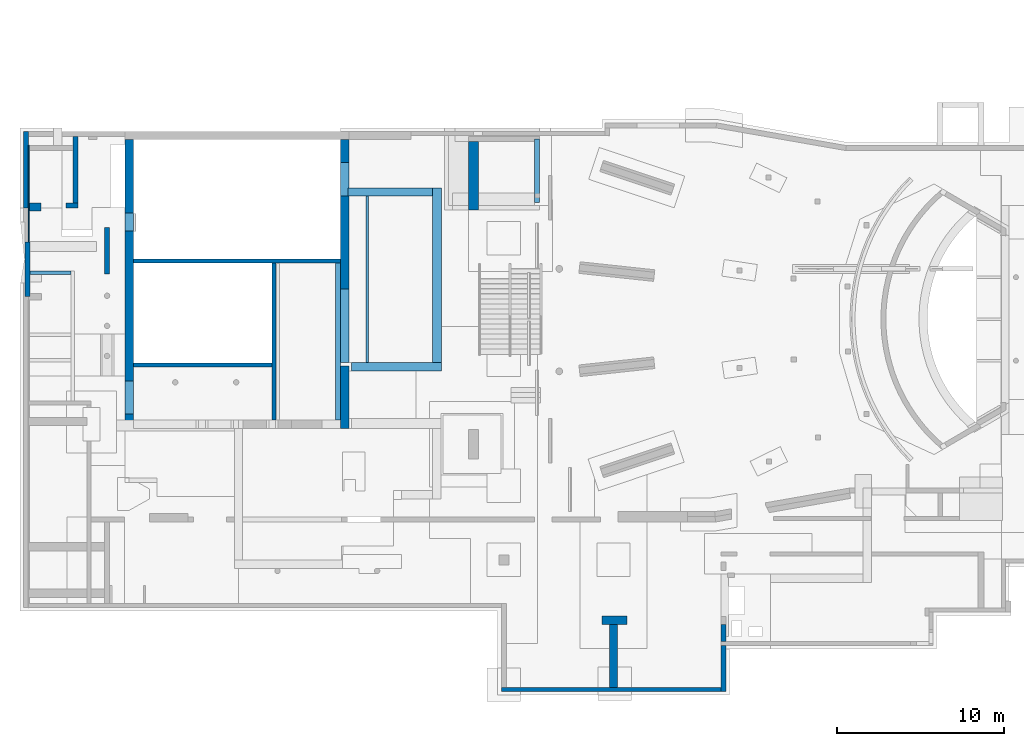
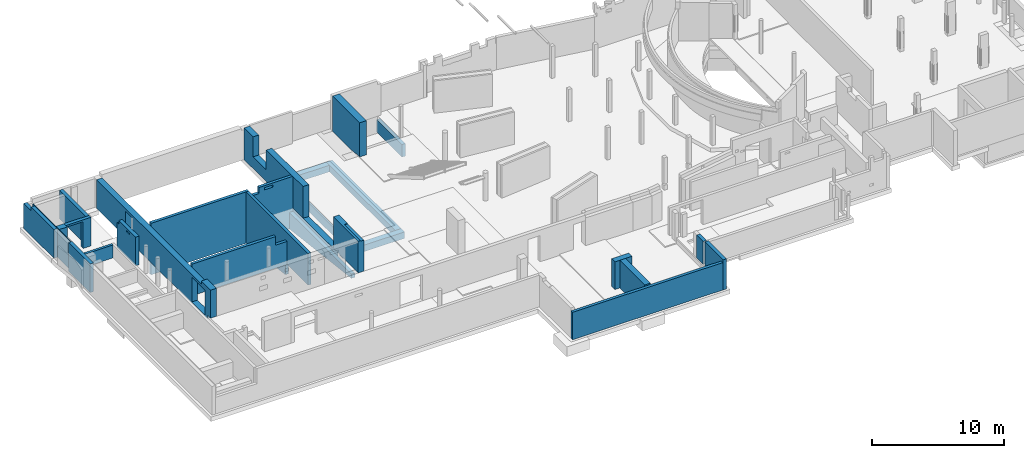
# One storey, part 32 of 42: 27 walls, 14 openings.
"""IFC2X3 building model written with IfcOpenShell, lengths in millimetres."""

from ifc_helpers import new_model, entity, si_unit, converted_unit, derived_unit, direction, frame, frame_2d, origin, origin_2d_with_axis, place, context, subcontext, project, spatial, polyline, rectangle, extrude, clip, bounded_halfspace, material, layer, layer_set, layer_usage, type_object, element, save


model = new_model("IFC2X3")

# Units and contexts
model_context = context("Model", 3, precision=0.01, world=origin(), true_north=direction((6.12303176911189e-17, 1.0)))
body_context = subcontext(model_context, "Body", "Model", "MODEL_VIEW")
ifc_project = project(units=[si_unit("LENGTHUNIT", "METRE", prefix="MILLI"), si_unit("AREAUNIT", "SQUARE_METRE", prefix="MILLI"), si_unit("VOLUMEUNIT", "CUBIC_METRE"), converted_unit("PLANEANGLEUNIT", "DEGREE", entity("IfcRatioMeasure", 0.0174532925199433), si_unit("PLANEANGLEUNIT", "RADIAN"), dimensions=[0, 0, 0, 0, 0, 0, 0]), si_unit("MASSUNIT", "GRAM", prefix="KILO"), derived_unit("MASSDENSITYUNIT", [(si_unit("MASSUNIT", "GRAM", prefix="KILO"), 1), (si_unit("LENGTHUNIT", "METRE"), -3)]), derived_unit("MOMENTOFINERTIAUNIT", [(si_unit("LENGTHUNIT", "METRE"), 4)]), si_unit("TIMEUNIT", "SECOND"), si_unit("FREQUENCYUNIT", "HERTZ"), si_unit("THERMODYNAMICTEMPERATUREUNIT", "DEGREE_CELSIUS"), derived_unit("THERMALTRANSMITTANCEUNIT", [(si_unit("MASSUNIT", "GRAM", prefix="KILO"), 1), (si_unit("THERMODYNAMICTEMPERATUREUNIT", "KELVIN"), -1), (si_unit("TIMEUNIT", "SECOND"), -3)]), derived_unit("VOLUMETRICFLOWRATEUNIT", [(si_unit("LENGTHUNIT", "METRE"), 3), (si_unit("TIMEUNIT", "SECOND"), -1)]), si_unit("ELECTRICCURRENTUNIT", "AMPERE"), si_unit("ELECTRICVOLTAGEUNIT", "VOLT"), si_unit("POWERUNIT", "WATT"), si_unit("FORCEUNIT", "NEWTON", prefix="KILO"), si_unit("ILLUMINANCEUNIT", "LUX"), si_unit("LUMINOUSFLUXUNIT", "LUMEN"), si_unit("LUMINOUSINTENSITYUNIT", "CANDELA"), derived_unit("USERDEFINED", [(si_unit("MASSUNIT", "GRAM", prefix="KILO"), -1), (si_unit("LENGTHUNIT", "METRE"), -2), (si_unit("TIMEUNIT", "SECOND"), 3), (si_unit("LUMINOUSFLUXUNIT", "LUMEN"), 1)]), derived_unit("LINEARVELOCITYUNIT", [(si_unit("LENGTHUNIT", "METRE"), 1), (si_unit("TIMEUNIT", "SECOND"), -1)]), si_unit("PRESSUREUNIT", "PASCAL"), derived_unit("USERDEFINED", [(si_unit("LENGTHUNIT", "METRE"), -2), (si_unit("MASSUNIT", "GRAM", prefix="KILO"), 1), (si_unit("TIMEUNIT", "SECOND"), -2)]), derived_unit("LINEARFORCEUNIT", [(si_unit("MASSUNIT", "GRAM", prefix="KILO"), 1), (si_unit("LENGTHUNIT", "METRE"), 1), (si_unit("TIMEUNIT", "SECOND"), -2), (si_unit("LENGTHUNIT", "METRE"), -1)]), derived_unit("PLANARFORCEUNIT", [(si_unit("MASSUNIT", "GRAM", prefix="KILO"), 1), (si_unit("LENGTHUNIT", "METRE"), 1), (si_unit("TIMEUNIT", "SECOND"), -2), (si_unit("LENGTHUNIT", "METRE"), -2)])], contexts=[model_context])

# Site, building, storey
site_placement = place(None, origin())
site = spatial("IfcSite", under=ifc_project, at=site_placement, Name="Theater aan de Parade", CompositionType="ELEMENT")
building_placement = place(site_placement, origin())
building = spatial("IfcBuilding", under=site, at=building_placement, Name="Theater aan de Parade", CompositionType="ELEMENT")
storey_placement = place(building_placement, frame((0.0, 0.0, -3300.0)))
storey = spatial("IfcBuildingStorey", under=building, at=storey_placement, Name="-1 kelder", CompositionType="ELEMENT", Elevation=-3300.0)

# Walls
ifc_material_1 = material(Name="00_PBT_MAT_beton t.p.g.")
ifc_layer_1 = layer(ifc_material_1, 250.0)
ifc_layer_set_1 = layer_set([ifc_layer_1], Name="Basic Wall:16_PBT_WA_beton t.p.g._d=250_bestaand")
ifc_layer_usage_1 = layer_usage(ifc_layer_set_1, "AXIS2", "POSITIVE", -125.0)
wall_type_1 = type_object("IfcWallType", Name="Basic Wall:16_PBT_WA_beton t.p.g._d=250_bestaand", PredefinedType="STANDARD", material=ifc_layer_set_1)
wall_1_placement = place(storey_placement, frame((38815.0, 10285.0, -40.0)))
element("IfcWallStandardCase", 1, at=wall_1_placement, inside=storey, type_object=wall_type_1, material=ifc_layer_usage_1, Name="Basic Wall:16_PBT_WA_beton t.p.g._d=250_bestaand", ObjectType="Basic Wall:16_PBT_WA_beton t.p.g._d=250_bestaand", context=body_context, shape_type="SweptSolid", body=[
    extrude(rectangle(XDim=13160.0, YDim=249.999999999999, at=frame_2d((6580.00000000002, -6.75015598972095e-13), x_axis=(-1.0, 0.0))), origin(), (0.0, 0.0, 1.0), 2540.0),
])
ifc_layer_2 = layer(ifc_material_1, 300.0)
ifc_layer_set_2 = layer_set([ifc_layer_2], Name="Basic Wall:16_PBT_WA_beton t.p.g._d=300_bestaand")
ifc_layer_usage_2 = layer_usage(ifc_layer_set_2, "AXIS2", "POSITIVE", -150.0)
wall_type_2 = type_object("IfcWallType", Name="Basic Wall:16_PBT_WA_beton t.p.g._d=300_bestaand", PredefinedType="STANDARD", material=ifc_layer_set_2)
wall_2_placement = place(storey_placement, frame((52125.0, 10160.0, -40.0), z_axis=(0.0, 0.0, 1.0), x_axis=(0.0, 1.0, 0.0)))
element("IfcWallStandardCase", 2, at=wall_2_placement, inside=storey, type_object=wall_type_2, material=ifc_layer_usage_2, Name="Basic Wall:16_PBT_WA_beton t.p.g._d=300_bestaand", ObjectType="Basic Wall:16_PBT_WA_beton t.p.g._d=300_bestaand", context=body_context, shape_type="SweptSolid", body=[
    extrude(rectangle(XDim=2750.00000000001, YDim=300.000000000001, at=frame_2d((1375.00000000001, 0.0), x_axis=(-1.0, 0.0))), origin(), (0.0, 0.0, 1.0), 2790.00000000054),
])
ifc_layer_usage_3 = layer_usage(ifc_layer_set_2, "AXIS2", "NEGATIVE", 150.0)
wall_3_placement = place(storey_placement, frame((10450.0, 33815.0, -40.0), z_axis=(0.0, 0.0, 1.0), x_axis=(0.0, 1.0, 0.0)))
element("IfcWallStandardCase", 3, at=wall_3_placement, inside=storey, type_object=wall_type_2, material=ifc_layer_usage_3, Name="Basic Wall:16_PBT_WA_beton t.p.g._d=300_bestaand", ObjectType="Basic Wall:16_PBT_WA_beton t.p.g._d=300_bestaand", context=body_context, shape_type="SweptSolid", body=[
    extrude(rectangle(XDim=3275.0, YDim=300.000000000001, at=frame_2d((1637.5, 0.0), x_axis=(-1.0, 0.0))), origin(), (0.0, 0.0, 1.0), 2650.00000000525),
])

# Wall, opening
ifc_layer_usage_4 = layer_usage(ifc_layer_set_2, "AXIS2", "NEGATIVE", 150.0)
wall_4_placement = place(storey_placement, frame((10340.0, 39120.0, -40.0), z_axis=(0.0, 0.0, 1.0), x_axis=(0.0, 1.0, 0.0)))
wall_4 = element("IfcWallStandardCase", 4, at=wall_4_placement, inside=storey, type_object=wall_type_2, material=ifc_layer_usage_4, Name="Basic Wall:16_PBT_WA_beton t.p.g._d=300_bestaand", ObjectType="Basic Wall:16_PBT_WA_beton t.p.g._d=300_bestaand", context=body_context, shape_type="SweptSolid", body=[
    extrude(rectangle(XDim=4580.00000002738, YDim=300.000000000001, at=frame_2d((2290.00000001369, 0.0), x_axis=(-1.0, 0.0))), origin(), (0.0, 0.0, 1.0), 2650.00000000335),
])
opening_1_placement = place(wall_4_placement, origin())
element("IfcOpeningElement", 5, at=opening_1_placement, cuts=wall_4, Name="Basic Wall:16_PBT_WA_beton t.p.g._d=300_bestaand", ObjectType="Opening", context=body_context, shape_type="SweptSolid", body=[
    extrude(rectangle(XDim=350.000000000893, YDim=1129.99999999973, at=origin_2d_with_axis()), frame((4015.0, 150.0, 2475.0), z_axis=(0.0, -1.0, 0.0), x_axis=(0.0, 0.0, 1.0)), (0.0, 0.0, 1.0), 300.0),
])

# Walls
ifc_layer_3 = layer(ifc_material_1, 500.0)
ifc_layer_set_3 = layer_set([ifc_layer_3], Name="Basic Wall:16_PBT_WA_beton t.p.g._d=500_bestaand")
ifc_layer_usage_5 = layer_usage(ifc_layer_set_3, "AXIS2", "POSITIVE", -250.0)
wall_type_3 = type_object("IfcWallType", Name="Basic Wall:16_PBT_WA_beton t.p.g._d=500_bestaand", PredefinedType="STANDARD", material=ifc_layer_set_3)
wall_5_placement = place(storey_placement, frame((34690.0, 40070.0, -1040.0), z_axis=(0.0, 0.0, 1.0), x_axis=(-1.0, 0.0, 0.0)))
element("IfcWallStandardCase", 6, at=wall_5_placement, inside=storey, type_object=wall_type_3, material=ifc_layer_usage_5, Name="Basic Wall:16_PBT_WA_beton t.p.g._d=500_bestaand", ObjectType="Basic Wall:16_PBT_WA_beton t.p.g._d=500_bestaand", context=body_context, shape_type="SweptSolid", body=[
    extrude(rectangle(XDim=5054.99999999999, YDim=500.000000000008, at=frame_2d((2527.5, 1.74793512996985e-12), x_axis=(-1.0, 0.0))), origin(), (0.0, 0.0, 1.0), 600.0),
])
ifc_layer_usage_6 = layer_usage(ifc_layer_set_3, "AXIS2", "POSITIVE", -250.0)
wall_6_placement = place(storey_placement, frame((35215.0, 29610.0, -1040.0), z_axis=(0.0, 0.0, 1.0), x_axis=(-1.0, 0.0, 0.0)))
element("IfcWallStandardCase", 7, at=wall_6_placement, inside=storey, type_object=wall_type_3, material=ifc_layer_usage_6, Name="Basic Wall:16_PBT_WA_beton t.p.g._d=500_bestaand", ObjectType="Basic Wall:16_PBT_WA_beton t.p.g._d=500_bestaand", context=body_context, shape_type="Clipping", body=[
    clip(extrude(rectangle(XDim=5390.0, YDim=499.999999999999, at=frame_2d((2695.0, 2.70006239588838e-13), x_axis=(-1.0, 0.0))), origin(), (0.0, 0.0, 1.0), 600.0), bounded_halfspace(frame((5390.0, -250.0, 600.0), z_axis=(-1.0, 0.0, 0.0), x_axis=(0.0, -1.0, 0.0)), True, frame((5390.0, -250.0, 600.0), z_axis=(-1.0, 0.0, 0.0), x_axis=(0.0, -1.0, 0.0)), polyline([(0.0, 0.0), (-500.0, 0.0), (-500.0, -600.0), (0.0, -600.0), (0.0, 0.0)]))),
])

# Wall, openings
ifc_layer_4 = layer(ifc_material_1, 500.0)
ifc_layer_set_4 = layer_set([ifc_layer_4], Name="Basic Wall:28_PBT_WA_beton t.p.g._d=500_bestaand")
ifc_layer_usage_7 = layer_usage(ifc_layer_set_4, "AXIS2", "POSITIVE", -250.0)
wall_type_4 = type_object("IfcWallType", Name="Basic Wall:28_PBT_WA_beton t.p.g._d=500_bestaand", PredefinedType="STANDARD", material=ifc_layer_set_4)
wall_7_placement = place(storey_placement, frame((16525.0, 25910.0, -40.0), z_axis=(0.0, 0.0, 1.0), x_axis=(0.0, 1.0, 0.0)))
wall_7 = element("IfcWallStandardCase", 8, at=wall_7_placement, inside=storey, type_object=wall_type_4, material=ifc_layer_usage_7, Name="Basic Wall:28_PBT_WA_beton t.p.g._d=500_bestaand", ObjectType="Basic Wall:28_PBT_WA_beton t.p.g._d=500_bestaand", context=body_context, shape_type="Clipping", body=[
    clip(clip(clip(clip(extrude(rectangle(XDim=17290.0, YDim=499.999999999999, at=frame_2d((8644.99999999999, -7.8159700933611e-13), x_axis=(-1.0, 0.0))), origin(), (0.0, 0.0, 1.0), 2930.00000000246), bounded_halfspace(frame((500.0, 250.0, 340.0), z_axis=(0.0, 0.0, 1.0), x_axis=(0.0, 1.0, 0.0)), True, frame((500.0, 250.0, 340.0), z_axis=(0.0, 0.0, 1.0), x_axis=(0.0, 1.0, 0.0)), polyline([(0.0, 0.0), (0.0, 500.0), (-500.0, 500.0), (-500.0, 0.0), (0.0, 0.0)]))), bounded_halfspace(frame((500.0, -250.0, 340.0), z_axis=(1.0, 0.0, 0.0), x_axis=(0.0, 0.0, 1.0)), True, frame((500.0, -250.0, 340.0), z_axis=(1.0, 0.0, 0.0), x_axis=(0.0, 0.0, 1.0)), polyline([(0.0, 0.0), (-340.0, 0.0), (-340.0, -500.0), (0.0, -500.0), (0.0, 0.0)]))), bounded_halfspace(frame((1410.0, 250.0, 2650.0), z_axis=(0.0, 0.0, -1.0), x_axis=(0.0, -1.0, 0.0)), True, frame((1410.0, 250.0, 2650.0), z_axis=(0.0, 0.0, -1.0), x_axis=(0.0, -1.0, 0.0)), polyline([(0.0, 0.0), (0.0, -15880.0), (500.0, -15880.0), (500.0, 0.0), (0.0, 0.0)]))), bounded_halfspace(frame((1410.0, -250.0, 2650.0), z_axis=(-1.0, 0.0, 0.0), x_axis=(0.0, 0.0, 1.0)), True, frame((1410.0, -250.0, 2650.0), z_axis=(-1.0, 0.0, 0.0), x_axis=(0.0, 0.0, 1.0)), polyline([(0.0, 0.0), (280.0, 0.0), (280.0, 500.0), (0.0, 500.0), (0.0, 0.0)]))),
])
opening_2_placement = place(wall_7_placement, origin())
element("IfcOpeningElement", 9, at=opening_2_placement, cuts=wall_7, Name="Basic Wall:28_PBT_WA_beton t.p.g._d=500_bestaand", ObjectType="Opening", context=body_context, shape_type="SweptSolid", body=[
    extrude(rectangle(XDim=2310.00000000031, YDim=1054.00534665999, at=frame_2d((1.13686837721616e-13, 2.1600499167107e-12), x_axis=(1.0, 0.0))), frame((12362.99923603, 250.0, 1265.0), z_axis=(0.0, -1.0, 0.0), x_axis=(0.0, 0.0, -1.0)), (0.0, 0.0, 1.0), 500.0),
])
opening_3_placement = place(wall_7_placement, origin())
element("IfcOpeningElement", 10, at=opening_3_placement, cuts=wall_7, Name="Basic Wall:28_PBT_WA_beton t.p.g._d=500_bestaand", ObjectType="Opening", context=body_context, shape_type="SweptSolid", body=[
    extrude(rectangle(XDim=2310.00000000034, YDim=1975.0, at=frame_2d((1.13686837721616e-13, 0.0), x_axis=(1.0, 0.0))), frame((1867.63359420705, 250.0, 1265.0), z_axis=(0.0, -1.0, 0.0), x_axis=(0.0, 0.0, 1.0)), (0.0, 0.0, 1.0), 500.0),
])
opening_4_placement = place(wall_7_placement, origin())
element("IfcOpeningElement", 11, at=opening_4_placement, cuts=wall_7, Name="Basic Wall:28_PBT_WA_beton t.p.g._d=500_bestaand", ObjectType="Opening", context=body_context, shape_type="SweptSolid", body=[
    extrude(rectangle(XDim=30.0000000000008, YDim=1950.00000000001, at=frame_2d((0.0, 0.0), x_axis=(0.0, 1.0))), frame((14315.0, 250.0, 15.0), z_axis=(0.0, -1.0, 0.0), x_axis=(1.0, 0.0, 0.0)), (0.0, 0.0, 1.0), 500.0),
])

# Walls
ifc_layer_usage_8 = layer_usage(ifc_layer_set_4, "AXIS2", "POSITIVE", -250.0)
wall_8_placement = place(storey_placement, frame((29425.0, 29860.0, -1040.0), z_axis=(0.0, 0.0, 1.0), x_axis=(0.0, 1.0, 0.0)))
element("IfcWallStandardCase", 12, at=wall_8_placement, inside=storey, type_object=wall_type_4, material=ifc_layer_usage_8, Name="Basic Wall:28_PBT_WA_beton t.p.g._d=500_bestaand", ObjectType="Basic Wall:28_PBT_WA_beton t.p.g._d=500_bestaand", context=body_context, shape_type="SweptSolid", body=[
    extrude(rectangle(XDim=9960.00000000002, YDim=499.999999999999, at=frame_2d((4980.00000000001, 5.40012479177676e-13), x_axis=(-1.0, 0.0))), origin(), (0.0, 0.0, 1.0), 1000.0),
])
ifc_layer_5 = layer(ifc_material_1, 525.0)
ifc_layer_set_5 = layer_set([ifc_layer_5], Name="Basic Wall:16_PBT_WA_beton t.p.g._d=525_bestaand")
ifc_layer_usage_9 = layer_usage(ifc_layer_set_5, "AXIS2", "POSITIVE", -262.5)
wall_type_5 = type_object("IfcWallType", Name="Basic Wall:16_PBT_WA_beton t.p.g._d=525_bestaand", PredefinedType="STANDARD", material=ifc_layer_set_5)
wall_9_placement = place(storey_placement, frame((34952.5000000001, 29860.0, -1040.0), z_axis=(0.0, 0.0, 1.0), x_axis=(0.0, 1.0, 0.0)))
element("IfcWallStandardCase", 13, at=wall_9_placement, inside=storey, type_object=wall_type_5, material=ifc_layer_usage_9, Name="Basic Wall:16_PBT_WA_beton t.p.g._d=525_bestaand", ObjectType="Basic Wall:16_PBT_WA_beton t.p.g._d=525_bestaand", context=body_context, shape_type="SweptSolid", body=[
    extrude(rectangle(XDim=10460.0, YDim=525.000000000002, at=frame_2d((5230.00000000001, 0.0), x_axis=(-1.0, 0.0))), origin(), (0.0, 0.0, 1.0), 600.0),
])

# Wall, opening
ifc_material_2 = material(Name="00_PBT_MAT_beton t.p.g._C30/37")
ifc_layer_6 = layer(ifc_material_2, 300.0)
ifc_layer_set_6 = layer_set([ifc_layer_6], Name="Basic Wall:28_PBT_WA_beton t.p.g._d=300_C30/37")
ifc_layer_usage_10 = layer_usage(ifc_layer_set_6, "AXIS2", "NEGATIVE", 150.0)
wall_type_6 = type_object("IfcWallType", Name="Basic Wall:28_PBT_WA_beton t.p.g._d=300_C30/37", PredefinedType="STANDARD", material=ifc_layer_set_6)
wall_10_placement = place(storey_placement, frame((13454.8570025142, 39270.0, -40.0), z_axis=(0.0, 0.0, 1.0), x_axis=(-1.0, 0.0, 0.0)))
wall_10 = element("IfcWallStandardCase", 14, at=wall_10_placement, inside=storey, type_object=wall_type_6, material=ifc_layer_usage_10, Name="Basic Wall:28_PBT_WA_beton t.p.g._d=300_C30/37", ObjectType="Basic Wall:28_PBT_WA_beton t.p.g._d=300_C30/37", context=body_context, shape_type="Clipping", body=[
    clip(clip(extrude(rectangle(XDim=2200.54436971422, YDim=300.000000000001, at=frame_2d((1100.27218485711, 1.77635683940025e-12), x_axis=(-1.0, 0.0))), origin(), (0.0, 0.0, 1.0), 2650.00000000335), bounded_halfspace(frame((0.0, -150.0, 2650.0), z_axis=(0.0, 0.0, -1.0), x_axis=(-1.0, 0.0, 0.0)), True, frame((0.0, -150.0, 2650.0), z_axis=(0.0, 0.0, -1.0), x_axis=(-1.0, 0.0, 0.0)), polyline([(0.0, 0.0), (0.0, 300.0), (-2200.54436971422, 300.0), (-2200.54436971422, 0.0), (-300.0, 0.0), (0.0, 0.0)]))), bounded_halfspace(frame((2200.54436971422, -150.0, 2650.0), z_axis=(-1.0, 0.0, 0.0), x_axis=(0.0, 1.0, 0.0)), True, frame((2200.54436971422, -150.0, 2650.0), z_axis=(-1.0, 0.0, 0.0), x_axis=(0.0, 1.0, 0.0)), polyline([(0.0, 0.0), (300.0, 0.0), (300.0, 160.0), (0.0, 160.0), (0.0, 0.0)]))),
])
opening_5_placement = place(wall_10_placement, origin())
element("IfcOpeningElement", 15, at=opening_5_placement, cuts=wall_10, Name="Basic Wall:28_PBT_WA_beton t.p.g._d=300_C30/37", ObjectType="Opening", context=body_context, shape_type="SweptSolid", body=[
    extrude(rectangle(XDim=2489.99999999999, YDim=1500.0, at=frame_2d((0.0, 1.08002495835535e-12), x_axis=(1.0, 0.0))), frame((1450.54436971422, -150.0, 1245.0), z_axis=(0.0, 1.0, 0.0), x_axis=(0.0, 0.0, -1.0)), (0.0, 0.0, 1.0), 300.000000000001),
])

# Walls
ifc_layer_usage_11 = layer_usage(ifc_layer_set_6, "AXIS2", "NEGATIVE", 150.0)
wall_11_placement = place(storey_placement, frame((13304.8570025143, 43400.0, -40.0), z_axis=(0.0, 0.0, 1.0), x_axis=(0.0, -1.0, 0.0)))
element("IfcWallStandardCase", 16, at=wall_11_placement, inside=storey, type_object=wall_type_6, material=ifc_layer_usage_11, Name="Basic Wall:28_PBT_WA_beton t.p.g._d=300_C30/37", ObjectType="Basic Wall:28_PBT_WA_beton t.p.g._d=300_C30/37", context=body_context, shape_type="SweptSolid", body=[
    extrude(rectangle(XDim=3980.00000002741, YDim=300.000000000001, at=frame_2d((1990.00000001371, -9.9475983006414e-14), x_axis=(-1.0, 0.0))), origin(), (0.0, 0.0, 1.0), 2650.00000000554),
])
ifc_layer_usage_12 = layer_usage(ifc_layer_set_6, "AXIS2", "POSITIVE", -150.0)
wall_12_placement = place(storey_placement, frame((29025.0, 26410.0, -1870.74050632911), z_axis=(0.0, 0.0, 1.0), x_axis=(0.0, 1.0, 0.0)))
element("IfcWallStandardCase", 17, at=wall_12_placement, inside=storey, type_object=wall_type_6, material=ifc_layer_usage_12, Name="Basic Wall:28_PBT_WA_beton t.p.g._d=300_C30/37", ObjectType="Basic Wall:28_PBT_WA_beton t.p.g._d=300_C30/37", context=body_context, shape_type="Clipping", body=[
    clip(clip(extrude(rectangle(XDim=9403.0, YDim=300.000000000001, at=frame_2d((4701.5, 5.6843418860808e-14), x_axis=(-1.0, 0.0))), origin(), (0.0, 0.0, 1.0), 1530.74050632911), bounded_halfspace(frame((9403.0, -150.0, 0.0), z_axis=(0.119393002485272, 0.0, 0.992847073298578), x_axis=(0.992847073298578, 0.0, -0.119393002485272)), True, frame((9403.0, -150.0, 0.0)), polyline([(0.0, 0.0), (0.0, 300.0), (-9403.0, 300.0), (-9403.0, 0.0), (0.0, 0.0)]))), bounded_halfspace(frame((0.0, -150.0, 1530.74050632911), z_axis=(0.0, 0.0, -1.0), x_axis=(0.0, 1.0, 0.0)), True, frame((0.0, -150.0, 1530.74050632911), z_axis=(0.0, 0.0, -1.0), x_axis=(0.0, 1.0, 0.0)), polyline([(0.0, 0.0), (300.0, 0.0), (300.0, 9403.0), (0.0, 9403.0), (0.0, 0.0)]))),
])

# Wall, openings
ifc_layer_usage_13 = layer_usage(ifc_layer_set_6, "AXIS2", "POSITIVE", -150.0)
wall_13_placement = place(storey_placement, frame((15203.8570025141, 35155.0608842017, -40.0), z_axis=(0.0, 0.0, 1.0), x_axis=(0.0, 1.0, 0.0)))
wall_13 = element("IfcWallStandardCase", 18, at=wall_13_placement, inside=storey, type_object=wall_type_6, material=ifc_layer_usage_13, Name="Basic Wall:28_PBT_WA_beton t.p.g._d=300_C30/37", ObjectType="Basic Wall:28_PBT_WA_beton t.p.g._d=300_C30/37", context=body_context, shape_type="SweptSolid", body=[
    extrude(rectangle(XDim=2800.0, YDim=300.000000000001, at=frame_2d((1400.0, -3.12638803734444e-13), x_axis=(-1.0, 0.0))), origin(), (0.0, 0.0, 1.0), 2650.00000000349),
])
opening_6_placement = place(wall_13_placement, origin())
element("IfcOpeningElement", 19, at=opening_6_placement, cuts=wall_13, Name="Basic Wall:28_PBT_WA_beton t.p.g._d=300_C30/37", ObjectType="Opening", context=body_context, shape_type="SweptSolid", body=[
    extrude(rectangle(XDim=349.999999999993, YDim=250.000000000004, at=frame_2d((0.0, 0.0), x_axis=(0.0, 1.0))), frame((2675.0, -150.0, 2475.0), z_axis=(0.0, 1.0, 0.0), x_axis=(1.0, 0.0, 0.0)), (0.0, 0.0, 1.0), 300.000000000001),
])
opening_7_placement = place(wall_13_placement, origin())
element("IfcOpeningElement", 20, at=opening_7_placement, cuts=wall_13, Name="Basic Wall:28_PBT_WA_beton t.p.g._d=300_C30/37", ObjectType="Opening", context=body_context, shape_type="SweptSolid", body=[
    extrude(rectangle(XDim=129.999999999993, YDim=450.000000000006, at=frame_2d((-2.1600499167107e-12, 0.0), x_axis=(0.0, 1.0))), frame((1135.0, -150.0, 2390.0), z_axis=(0.0, 1.0, 0.0), x_axis=(1.0, 0.0, 0.0)), (0.0, 0.0, 1.0), 300.000000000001),
])

ifc_layer_7 = layer(ifc_material_2, 250.0)
ifc_layer_set_7 = layer_set([ifc_layer_7], Name="Basic Wall:28_PBT_WA_beton t.p.g._d=250_C30/37")
ifc_layer_usage_14 = layer_usage(ifc_layer_set_7, "AXIS2", "POSITIVE", -125.0)
wall_type_7 = type_object("IfcWallType", Name="Basic Wall:28_PBT_WA_beton t.p.g._d=250_C30/37", PredefinedType="STANDARD", material=ifc_layer_set_7)
wall_14_placement = place(storey_placement, frame((16775.0, 35938.0, -1900.0)))
wall_14 = element("IfcWallStandardCase", 21, at=wall_14_placement, inside=storey, type_object=wall_type_7, material=ifc_layer_usage_14, Name="Basic Wall:28_PBT_WA_beton t.p.g._d=250_C30/37", ObjectType="Basic Wall:28_PBT_WA_beton t.p.g._d=250_C30/37", context=body_context, shape_type="Clipping", body=[
    clip(extrude(rectangle(XDim=12400.0, YDim=250.000000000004, at=frame_2d((6200.0, 1.20792265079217e-13), x_axis=(-1.0, 0.0))), origin(), (0.0, 0.0, 1.0), 4790.00000000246), bounded_halfspace(frame((12400.0, -125.0, 29.2594936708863), z_axis=(0.0, 0.119393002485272, 0.992847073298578), x_axis=(0.0, 0.992847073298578, -0.119393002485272)), True, frame((12400.0, -125.0, 29.2594936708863), z_axis=(0.0, 0.119393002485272, 0.992847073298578), x_axis=(0.0, 0.992847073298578, -0.119393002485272)), polyline([(0.0, 0.0), (245.068748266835, 0.0), (245.068748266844, 12400.0), (0.0, 12400.0), (0.0, 4100.0), (0.0, 3850.0), (0.0, 300.0), (0.0, 0.0)]))),
])
opening_8_placement = place(wall_14_placement, origin())
element("IfcOpeningElement", 22, at=opening_8_placement, cuts=wall_14, Name="Basic Wall:28_PBT_WA_beton t.p.g._d=250_C30/37", ObjectType="Opening", context=body_context, shape_type="SweptSolid", body=[
    extrude(rectangle(XDim=549.999999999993, YDim=900.000000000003, at=frame_2d((0.0, 0.0), x_axis=(0.0, 1.0))), frame((9000.0, -125.0, 4515.0), z_axis=(0.0, 1.0, 0.0), x_axis=(1.0, 0.0, 0.0)), (0.0, 0.0, 1.0), 250.000000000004),
])
opening_9_placement = place(wall_14_placement, origin())
element("IfcOpeningElement", 23, at=opening_9_placement, cuts=wall_14, Name="Basic Wall:28_PBT_WA_beton t.p.g._d=250_C30/37", ObjectType="Opening", context=body_context, shape_type="SweptSolid", body=[
    extrude(rectangle(XDim=199.999999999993, YDim=750.000000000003, at=frame_2d((0.0, 0.0), x_axis=(0.0, 1.0))), frame((10285.0, -125.0, 4500.0), z_axis=(0.0, 1.0, 0.0), x_axis=(1.0, 0.0, 0.0)), (0.0, 0.0, 1.0), 250.000000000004),
])

# Wall, opening
ifc_layer_usage_15 = layer_usage(ifc_layer_set_7, "AXIS2", "POSITIVE", -125.0)
wall_15_placement = place(storey_placement, frame((16775.0, 29714.0, -40.0)))
wall_15 = element("IfcWallStandardCase", 24, at=wall_15_placement, inside=storey, type_object=wall_type_7, material=ifc_layer_usage_15, Name="Basic Wall:28_PBT_WA_beton t.p.g._d=250_C30/37", ObjectType="Basic Wall:28_PBT_WA_beton t.p.g._d=250_C30/37", context=body_context, shape_type="SweptSolid", body=[
    extrude(rectangle(XDim=8299.99999999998, YDim=250.000000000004, at=frame_2d((4149.99999999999, -6.03961325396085e-13), x_axis=(-1.0, 0.0))), origin(), (0.0, 0.0, 1.0), 2930.00000000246),
])
opening_10_placement = place(wall_15_placement, origin())
element("IfcOpeningElement", 25, at=opening_10_placement, cuts=wall_15, Name="Basic Wall:28_PBT_WA_beton t.p.g._d=250_C30/37", ObjectType="Opening", context=body_context, shape_type="SweptSolid", body=[
    extrude(rectangle(XDim=799.999999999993, YDim=1000.00000000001, at=frame_2d((0.0, 0.0), x_axis=(0.0, 1.0))), frame((7800.0, -125.0, 2530.0), z_axis=(0.0, 1.0, 0.0), x_axis=(1.0, 0.0, 0.0)), (0.0, 0.0, 1.0), 250.000000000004),
])

ifc_layer_usage_16 = layer_usage(ifc_layer_set_7, "AXIS2", "POSITIVE", -125.0)
wall_16_placement = place(storey_placement, frame((25200.0, 26410.0, -1870.74050632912), z_axis=(0.0, 0.0, 1.0), x_axis=(0.0, 1.0, 0.0)))
wall_16 = element("IfcWallStandardCase", 26, at=wall_16_placement, inside=storey, type_object=wall_type_7, material=ifc_layer_usage_16, Name="Basic Wall:28_PBT_WA_beton t.p.g._d=250_C30/37", ObjectType="Basic Wall:28_PBT_WA_beton t.p.g._d=250_C30/37", context=body_context, shape_type="Clipping", body=[
    clip(clip(clip(extrude(rectangle(XDim=9403.0, YDim=250.000000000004, at=frame_2d((4701.5, -7.95807864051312e-13), x_axis=(-1.0, 0.0))), origin(), (0.0, 0.0, 1.0), 4760.74050633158), bounded_halfspace(frame((9403.0, 125.0, 0.0), z_axis=(0.119393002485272, 0.0, 0.992847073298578), x_axis=(0.992847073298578, 0.0, -0.119393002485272)), True, frame((9403.0, 125.0, 0.0)), polyline([(0.0, 0.0), (-5974.0, 0.0), (-5974.0, -250.0), (0.0, -250.0), (0.0, 0.0)]))), bounded_halfspace(frame((3429.0, -125.0, 1830.74050632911), z_axis=(1.0, 0.0, 0.0), x_axis=(0.0, 1.0, 0.0)), True, frame((3429.0, -125.0, 1830.74050632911), z_axis=(1.0, 0.0, 0.0), x_axis=(0.0, 1.0, 0.0)), polyline([(0.0, 0.0), (0.0, -1112.34810126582), (250.0, -1112.34810126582), (250.0, 0.0), (0.0, 0.0)]))), bounded_halfspace(frame((3429.0, 125.0, 1830.74050632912), z_axis=(0.0, 0.0, 1.0), x_axis=(0.0, 1.0, 0.0)), True, frame((3429.0, 125.0, 1830.74050632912), z_axis=(0.0, 0.0, 1.0), x_axis=(0.0, 1.0, 0.0)), polyline([(0.0, 0.0), (0.0, 250.0), (0.0, 3429.0), (-250.0, 3429.0), (-250.0, 0.0), (0.0, 0.0)]))),
])
opening_11_placement = place(wall_16_placement, origin())
element("IfcOpeningElement", 27, at=opening_11_placement, cuts=wall_16, Name="Basic Wall:28_PBT_WA_beton t.p.g._d=250_C30/37", ObjectType="Opening", context=body_context, shape_type="SweptSolid", body=[
    extrude(rectangle(XDim=799.999999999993, YDim=250.000000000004, at=frame_2d((0.0, 0.0), x_axis=(0.0, 1.0))), frame((3304.0, 125.0, 4360.74050633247), z_axis=(0.0, 1.0, 0.0), x_axis=(1.0, 0.0, 0.0)), (0.0, 0.0, 1.0), 1000.00000000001),
])

ifc_layer_8 = layer(ifc_material_2, 500.0)
ifc_layer_set_8 = layer_set([ifc_layer_8], Name="Basic Wall:28_PBT_WA_beton t.p.g._d=500_C30/37")
ifc_layer_usage_17 = layer_usage(ifc_layer_set_8, "AXIS2", "POSITIVE", -250.0)
wall_type_8 = type_object("IfcWallType", Name="Basic Wall:28_PBT_WA_beton t.p.g._d=500_C30/37", PredefinedType="STANDARD", material=ifc_layer_set_8)
wall_17_placement = place(storey_placement, frame((29425.0, 25910.0, -40.0), z_axis=(0.0, 0.0, 1.0), x_axis=(0.0, 1.0, 0.0)))
wall_17 = element("IfcWallStandardCase", 28, at=wall_17_placement, inside=storey, type_object=wall_type_8, material=ifc_layer_usage_17, Name="Basic Wall:28_PBT_WA_beton t.p.g._d=500_C30/37", ObjectType="Basic Wall:28_PBT_WA_beton t.p.g._d=500_C30/37", context=body_context, shape_type="SweptSolid", body=[
    extrude(rectangle(XDim=3750.00017892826, YDim=499.999999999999, at=frame_2d((1875.00008946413, 4.68958205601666e-13), x_axis=(-1.0, 0.0))), origin(), (0.0, 0.0, 1.0), 2930.00000000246),
])
opening_12_placement = place(wall_17_placement, origin())
element("IfcOpeningElement", 29, at=opening_12_placement, cuts=wall_17, Name="Basic Wall:28_PBT_WA_beton t.p.g._d=500_C30/37", ObjectType="Recess", context=body_context, shape_type="SweptSolid", body=[
    extrude(rectangle(XDim=59.9999999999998, YDim=2463.0, at=frame_2d((-6.75015598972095e-14, -2.1600499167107e-12), x_axis=(1.0, 0.0))), frame((1231.5, -250.0, 2900.0), z_axis=(0.0, 1.0, 0.0), x_axis=(0.0, 0.0, -1.0)), (0.0, 0.0, 1.0), 320.000000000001),
])

ifc_layer_usage_18 = layer_usage(ifc_layer_set_8, "AXIS2", "POSITIVE", -250.0)
wall_18_placement = place(storey_placement, frame((29425.0, 34256.08488131, -40.0), z_axis=(0.0, 0.0, 1.0), x_axis=(0.0, 1.0, 0.0)))
wall_18 = element("IfcWallStandardCase", 30, at=wall_18_placement, inside=storey, type_object=wall_type_8, material=ifc_layer_usage_18, Name="Basic Wall:28_PBT_WA_beton t.p.g._d=500_C30/37", ObjectType="Basic Wall:28_PBT_WA_beton t.p.g._d=500_C30/37", context=body_context, shape_type="SweptSolid", body=[
    extrude(rectangle(XDim=8943.9151186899, YDim=499.999999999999, at=frame_2d((4471.95755934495, -1.98951966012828e-13), x_axis=(-1.0, 0.0))), origin(), (0.0, 0.0, 1.0), 2930.00000000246),
])
opening_13_placement = place(wall_18_placement, origin())
element("IfcOpeningElement", 31, at=opening_13_placement, cuts=wall_18, Name="Basic Wall:28_PBT_WA_beton t.p.g._d=500_C30/37", ObjectType="Opening", context=body_context, shape_type="SweptSolid", body=[
    extrude(rectangle(XDim=1849.99999999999, YDim=2000.0, at=frame_2d((4.32009983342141e-12, 0.0), x_axis=(0.0, 1.0))), frame((6583.91511868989, -250.0, 2005.69969560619), z_axis=(0.0, 1.0, 0.0), x_axis=(1.0, 0.0, 0.0)), (0.0, 0.0, 1.0), 499.999999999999),
])

ifc_layer_usage_19 = layer_usage(ifc_layer_set_8, "AXIS2", "NEGATIVE", 250.0)
wall_19_placement = place(storey_placement, frame((11254.3126328, 39170.0, -40.0), z_axis=(0.0, 0.0, 1.0), x_axis=(-1.0, 0.0, 0.0)))
wall_19 = element("IfcWallStandardCase", 32, at=wall_19_placement, inside=storey, type_object=wall_type_8, material=ifc_layer_usage_19, Name="Basic Wall:28_PBT_WA_beton t.p.g._d=500_C30/37", ObjectType="Basic Wall:28_PBT_WA_beton t.p.g._d=500_C30/37", context=body_context, shape_type="SweptSolid", body=[
    extrude(rectangle(XDim=700.200079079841, YDim=500.000000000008, at=frame_2d((350.100039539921, -2.38742359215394e-12), x_axis=(-1.0, 0.0))), origin(), (0.0, 0.0, 1.0), 2650.00000000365),
])
opening_14_placement = place(wall_19_placement, origin())
element("IfcOpeningElement", 33, at=opening_14_placement, cuts=wall_19, Name="Basic Wall:28_PBT_WA_beton t.p.g._d=500_C30/37", ObjectType="Recess", context=body_context, shape_type="SweptSolid", body=[
    extrude(rectangle(XDim=2489.99999999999, YDim=1500.0, at=frame_2d((0.0, 1.08002495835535e-12), x_axis=(1.0, 0.0))), frame((-750.0, -250.0, 1245.0), z_axis=(0.0, 1.0, 0.0), x_axis=(0.0, 0.0, -1.0)), (0.0, 0.0, 1.0), 300.000000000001),
])

# Walls
ifc_layer_9 = layer(ifc_material_2, 600.0)
ifc_layer_set_9 = layer_set([ifc_layer_9], Name="Basic Wall:28_PBT_WA_beton t.p.g._d=600_C30/37")
ifc_layer_usage_20 = layer_usage(ifc_layer_set_9, "AXIS2", "NEGATIVE", 300.0)
wall_type_9 = type_object("IfcWallType", Name="Basic Wall:28_PBT_WA_beton t.p.g._d=600_C30/37", PredefinedType="STANDARD", material=ifc_layer_set_9)
wall_20_placement = place(storey_placement, frame((37153.8581300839, 43100.0, -40.0), z_axis=(0.0, 0.0, 1.0), x_axis=(0.0, -1.0, 0.0)))
element("IfcWallStandardCase", 34, at=wall_20_placement, inside=storey, type_object=wall_type_9, material=ifc_layer_usage_20, Name="Basic Wall:28_PBT_WA_beton t.p.g._d=600_C30/37", ObjectType="Basic Wall:28_PBT_WA_beton t.p.g._d=600_C30/37", context=body_context, shape_type="Clipping", body=[
    clip(clip(extrude(rectangle(XDim=4100.00000560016, YDim=600.000000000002, at=frame_2d((2050.00000280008, 1.27897692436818e-12), x_axis=(-1.0, 0.0))), origin(), (0.0, 0.0, 1.0), 3250.00000000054), bounded_halfspace(frame((3480.0, -300.0, 100.0), z_axis=(0.0, 0.0, 1.0), x_axis=(0.0, -1.0, 0.0)), True, frame((3480.0, -300.0, 100.0), z_axis=(0.0, 0.0, 1.0), x_axis=(0.0, -1.0, 0.0)), polyline([(0.0, 0.0), (0.0, 620.000005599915), (-600.0, 620.000005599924), (-600.0, 0.0), (0.0, 0.0)]))), bounded_halfspace(frame((3480.0, 300.0, 100.0), z_axis=(-1.0, 0.0, 0.0), x_axis=(0.0, 0.0, 1.0)), True, frame((3480.0, 300.0, 100.0), z_axis=(-1.0, 0.0, 0.0), x_axis=(0.0, 0.0, 1.0)), polyline([(0.0, 0.0), (-100.0, 0.0), (-100.0, -600.0), (0.0, -600.0), (0.0, 0.0)]))),
])
ifc_layer_10 = layer(ifc_material_2, 200.0)
ifc_layer_set_10 = layer_set([ifc_layer_10], Name="Basic Wall:28_PBT_WA_beton t.p.g._d=200_C30/37")
ifc_layer_usage_21 = layer_usage(ifc_layer_set_10, "AXIS2", "NEGATIVE", 100.0)
wall_type_10 = type_object("IfcWallType", Name="Basic Wall:28_PBT_WA_beton t.p.g._d=200_C30/37", PredefinedType="STANDARD", material=ifc_layer_set_10)
wall_21_placement = place(storey_placement, frame((13054.11255371, 35232.0, 1410.0), z_axis=(0.0, 0.0, 1.0), x_axis=(-1.0, 0.0, 0.0)))
element("IfcWallStandardCase", 35, at=wall_21_placement, inside=storey, type_object=wall_type_10, material=ifc_layer_usage_21, Name="Basic Wall:28_PBT_WA_beton t.p.g._d=200_C30/37", ObjectType="Basic Wall:28_PBT_WA_beton t.p.g._d=200_C30/37", context=body_context, shape_type="SweptSolid", body=[
    extrude(rectangle(XDim=2454.11255370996, YDim=199.999999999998, at=frame_2d((1227.05627685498, -8.10018718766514e-13), x_axis=(-1.0, 0.0))), origin(), (0.0, 0.0, 1.0), 1200.00000000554),
])
ifc_layer_11 = layer(ifc_material_2, 300.0)
ifc_layer_set_11 = layer_set([ifc_layer_11], Name="Basic Wall:16_PBT_WA_beton t.p.g._d=300_C30/37")
ifc_layer_usage_22 = layer_usage(ifc_layer_set_11, "AXIS2", "POSITIVE", -150.0)
wall_type_11 = type_object("IfcWallType", Name="Basic Wall:16_PBT_WA_beton t.p.g._d=300_C30/37", PredefinedType="STANDARD", material=ifc_layer_set_11)
wall_22_placement = place(storey_placement, frame((40953.8581275, 39430.0, -1600.0), z_axis=(0.0, 0.0, 1.0), x_axis=(0.0, 1.0, 0.0)))
element("IfcWallStandardCase", 36, at=wall_22_placement, inside=storey, type_object=wall_type_11, material=ifc_layer_usage_22, Name="Basic Wall:16_PBT_WA_beton t.p.g._d=300_C30/37", ObjectType="Basic Wall:16_PBT_WA_beton t.p.g._d=300_C30/37", context=body_context, shape_type="Clipping", body=[
    clip(extrude(rectangle(XDim=3820.0, YDim=300.000000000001, at=frame_2d((1910.0, 2.1316282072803e-13), x_axis=(-1.0, 0.0))), origin(), (0.0, 0.0, 1.0), 1160.0), bounded_halfspace(frame((3820.0, -150.0, 0.0), z_axis=(0.0, 0.0, 1.0), x_axis=(0.0, -1.0, 0.0)), True, frame((3820.0, -150.0, 0.0), z_axis=(0.0, 0.0, 1.0), x_axis=(0.0, -1.0, 0.0)), polyline([(0.0, 0.0), (-300.0, 0.0), (-300.0, -150.0), (-300.0, -3250.0), (-300.0, -3820.0), (0.0, -3820.0), (0.0, 0.0)]))),
])
ifc_layer_usage_23 = layer_usage(ifc_layer_set_11, "AXIS2", "POSITIVE", -150.0)
wall_23_placement = place(storey_placement, frame((52125.0, 13160.0, 520.0), z_axis=(0.0, 0.0, 1.0), x_axis=(0.0, 1.0, 0.0)))
element("IfcWallStandardCase", 37, at=wall_23_placement, inside=storey, type_object=wall_type_11, material=ifc_layer_usage_23, Name="Basic Wall:16_PBT_WA_beton t.p.g._d=300_C30/37", ObjectType="Basic Wall:16_PBT_WA_beton t.p.g._d=300_C30/37", context=body_context, shape_type="Clipping", body=[
    clip(extrude(rectangle(XDim=999.999999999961, YDim=300.000000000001, at=frame_2d((499.999999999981, 0.0), x_axis=(-1.0, 0.0))), origin(), (0.0, 0.0, 1.0), 2100.00000000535), bounded_halfspace(frame((0.0, -150.0, 2100.0), z_axis=(0.0, 0.0, -1.0), x_axis=(0.0, 1.0, 0.0)), True, frame((0.0, -150.0, 2100.0), z_axis=(0.0, 0.0, -1.0), x_axis=(0.0, 1.0, 0.0)), polyline([(0.0, 0.0), (300.0, 0.0), (300.0, 1000.0), (0.0, 1000.0), (0.0, 0.0)]))),
])
ifc_material_3 = material(Name="00_PBT_MAT_beton t.p.g._C53/65")
ifc_layer_12 = layer(ifc_material_3, 500.0)
ifc_layer_set_12 = layer_set([ifc_layer_12], Name="Basic Wall:28_PBT_WA_beton t.p.g._d=500_C53/65")
ifc_layer_usage_24 = layer_usage(ifc_layer_set_12, "AXIS2", "POSITIVE", -250.0)
wall_type_12 = type_object("IfcWallType", Name="Basic Wall:28_PBT_WA_beton t.p.g._d=500_C53/65", PredefinedType="STANDARD", material=ifc_layer_set_12)
wall_24_placement = place(storey_placement, frame((45525.0, 10410.0, -40.0), z_axis=(0.0, 0.0, 1.0), x_axis=(0.0, 1.0, 0.0)))
element("IfcWallStandardCase", 38, at=wall_24_placement, inside=storey, type_object=wall_type_12, material=ifc_layer_usage_24, Name="Basic Wall:28_PBT_WA_beton t.p.g._d=500_C53/65", ObjectType="Basic Wall:28_PBT_WA_beton t.p.g._d=500_C53/65", context=body_context, shape_type="Clipping", body=[
    clip(clip(extrude(rectangle(XDim=3759.99969430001, YDim=500.000000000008, at=frame_2d((1879.99984715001, 0.0), x_axis=(-1.0, 0.0))), origin(), (0.0, 0.0, 1.0), 2659.99999994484), bounded_halfspace(frame((2340.0, -250.0, 100.0)), True, frame((2340.0, -250.0, 100.0)), polyline([(0.0, 0.0), (1419.99969430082, 0.0), (1419.99969430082, 500.0), (0.0, 500.0), (0.0, 0.0)]))), bounded_halfspace(frame((2340.0, 250.0, 100.0), z_axis=(-1.0, 0.0, 0.0), x_axis=(0.0, 0.0, 1.0)), True, frame((2340.0, 250.0, 100.0), z_axis=(-1.0, 0.0, 0.0), x_axis=(0.0, 0.0, 1.0)), polyline([(0.0, 0.0), (-100.0, 0.0), (-100.0, -500.0), (0.0, -500.0), (0.0, 0.0)]))),
])
ifc_layer_usage_25 = layer_usage(ifc_layer_set_12, "AXIS2", "POSITIVE", -250.0)
wall_25_placement = place(storey_placement, frame((46344.2615372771, 14419.9996942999, 60.0), z_axis=(0.0, 0.0, 1.0), x_axis=(-1.0, 0.0, 0.0)))
element("IfcWallStandardCase", 39, at=wall_25_placement, inside=storey, type_object=wall_type_12, material=ifc_layer_usage_25, Name="Basic Wall:28_PBT_WA_beton t.p.g._d=500_C53/65", ObjectType="Basic Wall:28_PBT_WA_beton t.p.g._d=500_C53/65", context=body_context, shape_type="Clipping", body=[
    clip(extrude(rectangle(XDim=1500.00003269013, YDim=499.999999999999, at=frame_2d((750.000016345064, -7.38964445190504e-13), x_axis=(-1.0, 0.0))), origin(), (0.0, 0.0, 1.0), 2560.00000000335), bounded_halfspace(frame((1500.00003269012, -250.0, 0.0), z_axis=(0.0, 0.0, 1.0), x_axis=(0.0, -1.0, 0.0)), True, frame((1500.00003269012, -250.0, 0.0), z_axis=(0.0, 0.0, 1.0), x_axis=(0.0, -1.0, 0.0)), polyline([(0.0, 0.0), (-500.0, 0.0), (-500.0, -430.738495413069), (-500.0, -930.738495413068), (-500.0, -1500.00003269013), (0.0, -1500.00003269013), (0.0, 0.0)]))),
])
ifc_layer_13 = layer(ifc_material_2, 65.0)
ifc_layer_set_13 = layer_set([ifc_layer_13], Name="Basic Wall:28_PBT_WA_beton t.p.g._d=65_C30/37")
ifc_layer_usage_26 = layer_usage(ifc_layer_set_13, "AXIS2", "NEGATIVE", 32.5)
wall_type_13 = type_object("IfcWallType", Name="Basic Wall:28_PBT_WA_beton t.p.g._d=65_C30/37", PredefinedType="STANDARD", material=ifc_layer_set_13)
wall_26_placement = place(storey_placement, frame((10521.6125537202, 42870.0, -40.0), z_axis=(0.0, 0.0, 1.0), x_axis=(0.0, -1.0, 0.0)))
element("IfcWallStandardCase", 40, at=wall_26_placement, inside=storey, type_object=wall_type_13, material=ifc_layer_usage_26, Name="Basic Wall:28_PBT_WA_beton t.p.g._d=65_C30/37", ObjectType="Basic Wall:28_PBT_WA_beton t.p.g._d=65_C30/37", context=body_context, shape_type="SweptSolid", body=[
    extrude(rectangle(XDim=5780.00000000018, YDim=64.9999999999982, at=frame_2d((2890.00000000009, 9.27258270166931e-13), x_axis=(-1.0, 0.0))), origin(), (0.0, 0.0, 1.0), 2650.00000000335),
])
ifc_material_4 = material(Name="00_PBT_MAT_kalkzandsteen_CS20")
ifc_layer_14 = layer(ifc_material_4, 150.0)
ifc_layer_set_14 = layer_set([ifc_layer_14], Name="Basic Wall:28_PBT_WA_kzs_d=150_CS20")
ifc_layer_usage_27 = layer_usage(ifc_layer_set_14, "AXIS2", "POSITIVE", -75.0)
wall_type_14 = type_object("IfcWallType", Name="Basic Wall:28_PBT_WA_kzs_d=150_CS20", PredefinedType="STANDARD", material=ifc_layer_set_14)
wall_27_placement = place(storey_placement, frame((30790.0, 29860.0, -1040.0), z_axis=(0.0, 0.0, 1.0), x_axis=(0.0, 1.0, 0.0)))
element("IfcWallStandardCase", 41, at=wall_27_placement, inside=storey, type_object=wall_type_14, material=ifc_layer_usage_27, Name="Basic Wall:28_PBT_WA_kzs_d=150_CS20", ObjectType="Basic Wall:28_PBT_WA_kzs_d=150_CS20", context=body_context, shape_type="SweptSolid", body=[
    extrude(rectangle(XDim=9960.00000000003, YDim=150.000000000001, at=frame_2d((4980.00000000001, 5.40012479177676e-13), x_axis=(-1.0, 0.0))), origin(), (0.0, 0.0, 1.0), 750.000000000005),
])

save(model, "model.ifc")
